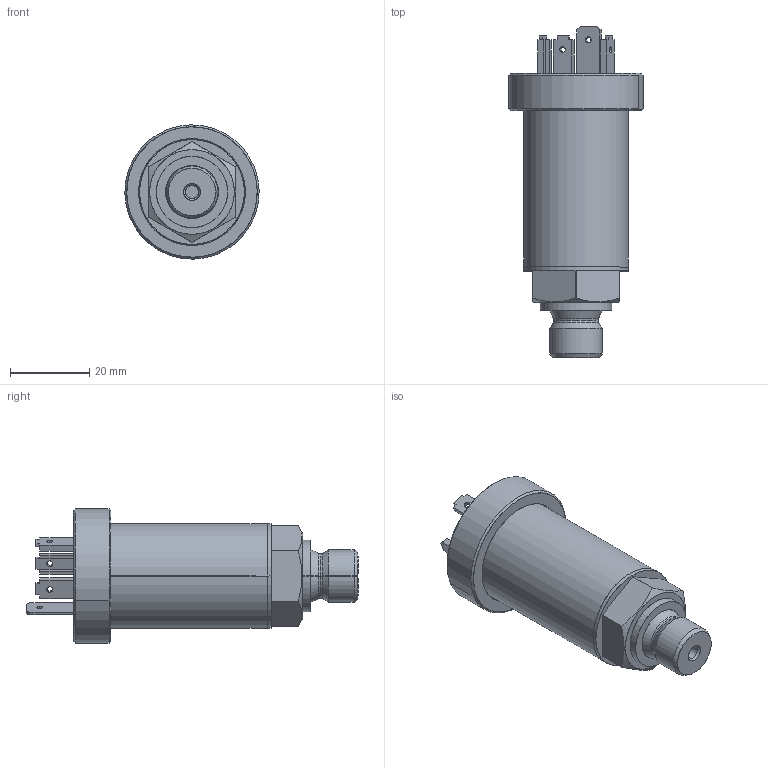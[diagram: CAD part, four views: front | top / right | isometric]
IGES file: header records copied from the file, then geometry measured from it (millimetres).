
Start section: SolidWorks IGES file using analytic representation for surfaces
Global section: file name: C:\Documents and Settings\Cherchi\Desktop\TK\3D\Iges\TK.IGS; native system: SolidWorks 2007; preprocessor: SolidWorks 2007; author: Cherchi; date: 071214.144532; units: millimetre
Bounding box: 33.99 x 84 x 33.99 mm (x, y, z)
Surface area: 13625.1 mm2 (no closed solid volume)
Topology: 0 solids, 0 shells, 117 faces, 1398 edges, 1398 vertices
Faces by surface type: bspline 67, revolution 50
